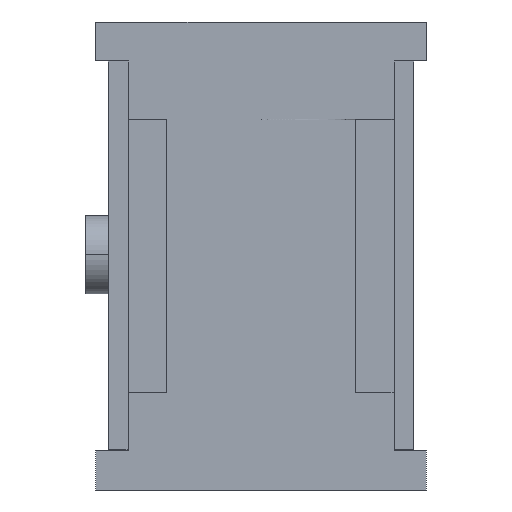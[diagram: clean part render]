
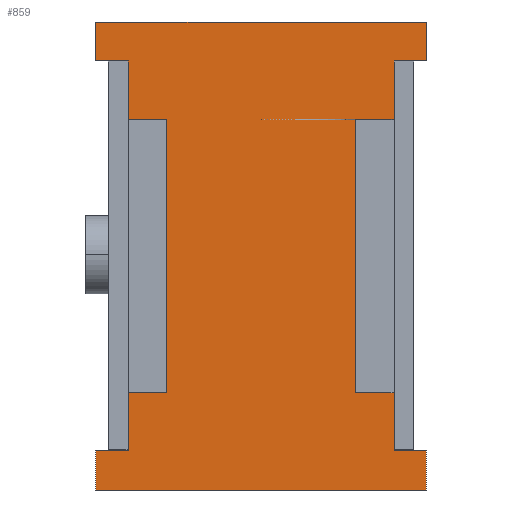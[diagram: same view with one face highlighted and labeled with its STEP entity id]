
A CAD part, front view. The second image highlights one B-rep face of the part: STEP entity #859.
In plain terms, the highlighted planar face has unit normal (0, -1, 0).
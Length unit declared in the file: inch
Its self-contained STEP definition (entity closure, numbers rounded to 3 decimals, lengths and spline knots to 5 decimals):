
#567=EDGE_CURVE('',#1585,#1586,#1587,.T.);
#641=EDGE_CURVE('',#1721,#1722,#1723,.T.);
#693=EDGE_CURVE('',#1811,#1812,#1813,.T.);
#701=EDGE_CURVE('',#1581,#1825,#1826,.T.);
#719=EDGE_CURVE('',#1811,#1851,#1852,.T.);
#749=EDGE_CURVE('',#1812,#1896,#1897,.T.);
#761=EDGE_CURVE('',#1721,#1914,#1915,.T.);
#859=ADVANCED_FACE('',(#2060),#2061,.T.);
#913=EDGE_CURVE('',#2139,#1586,#2140,.T.);
#977=EDGE_CURVE('',#1869,#2231,#2232,.T.);
#1081=EDGE_CURVE('',#2294,#1633,#2371,.T.);
#1221=EDGE_CURVE('',#1585,#1581,#2545,.T.);
#1225=EDGE_CURVE('',#1825,#1896,#2549,.T.);
#1233=EDGE_CURVE('',#2559,#1914,#2560,.T.);
#1311=EDGE_CURVE('',#1633,#2651,#2652,.T.);
#1335=EDGE_CURVE('',#1722,#2139,#2679,.T.);
#1411=EDGE_CURVE('',#2651,#2771,#2772,.T.);
#1413=EDGE_CURVE('',#2754,#2771,#2774,.T.);
#1449=EDGE_CURVE('',#2754,#1869,#2813,.T.);
#1499=EDGE_CURVE('',#2231,#1851,#2869,.T.);
#1533=EDGE_CURVE('',#2294,#2559,#2907,.T.);
#1581=VERTEX_POINT('',#2961);
#1585=VERTEX_POINT('',#2967);
#1586=VERTEX_POINT('',#2968);
#1587=LINE('',#2969,#2970);
#1633=VERTEX_POINT('',#3154);
#1721=VERTEX_POINT('',#3414);
#1722=VERTEX_POINT('',#3415);
#1723=LINE('',#3416,#3417);
#1811=VERTEX_POINT('',#3698);
#1812=VERTEX_POINT('',#3699);
#1813=LINE('',#3700,#3701);
#1825=VERTEX_POINT('',#3722);
#1826=LINE('',#3723,#3724);
#1851=VERTEX_POINT('',#3765);
#1852=LINE('',#3766,#3767);
#1869=VERTEX_POINT('',#3797);
#1896=VERTEX_POINT('',#3842);
#1897=LINE('',#3843,#3844);
#1914=VERTEX_POINT('',#3874);
#1915=LINE('',#3875,#3876);
#2060=FACE_OUTER_BOUND('',#4148,.T.);
#2061=PLANE('',#4149);
#2139=VERTEX_POINT('',#4279);
#2140=LINE('',#4280,#4281);
#2231=VERTEX_POINT('',#4448);
#2232=LINE('',#4449,#4450);
#2294=VERTEX_POINT('',#4556);
#2371=LINE('',#4707,#4708);
#2545=LINE('',#5030,#5031);
#2549=LINE('',#5038,#5039);
#2559=VERTEX_POINT('',#5052);
#2560=LINE('',#5053,#5054);
#2651=VERTEX_POINT('',#5516);
#2652=LINE('',#5517,#5518);
#2679=LINE('',#5573,#5574);
#2754=VERTEX_POINT('',#5713);
#2771=VERTEX_POINT('',#5736);
#2772=LINE('',#5737,#5738);
#2774=LINE('',#5741,#5742);
#2813=LINE('',#5859,#5860);
#2869=LINE('',#6006,#6007);
#2907=LINE('',#6095,#6096);
#2961=CARTESIAN_POINT('',(0.06349,0.74993,1.25));
#2967=CARTESIAN_POINT('',(0.06349,0.74993,1.0625));
#2968=CARTESIAN_POINT('',(0.18795,0.74993,1.0625));
#2969=CARTESIAN_POINT('',(0.06349,0.74993,1.0625));
#2970=VECTOR('',#6124,1.0);
#3154=CARTESIAN_POINT('',(1.0196,0.74993,0.0));
#3414=CARTESIAN_POINT('',(0.06349,0.74993,0.0));
#3415=CARTESIAN_POINT('',(0.06349,0.74993,0.1875));
#3416=CARTESIAN_POINT('',(0.06349,0.74993,0.0));
#3417=VECTOR('',#6205,1.0);
#3698=CARTESIAN_POINT('',(1.01987,0.74993,1.25));
#3699=CARTESIAN_POINT('',(1.01987,0.74993,1.375));
#3700=CARTESIAN_POINT('',(1.01987,0.74993,1.25));
#3701=VECTOR('',#6275,1.0);
#3722=CARTESIAN_POINT('',(-0.0398,0.74993,1.25));
#3723=CARTESIAN_POINT('',(1.01987,0.74993,1.25));
#3724=VECTOR('',#6278,1.0);
#3765=CARTESIAN_POINT('',(0.91605,0.74993,1.25));
#3766=CARTESIAN_POINT('',(1.01987,0.74993,1.25));
#3767=VECTOR('',#6297,1.0);
#3797=CARTESIAN_POINT('',(0.79175,0.74993,1.0625));
#3842=CARTESIAN_POINT('',(-0.0398,0.74993,1.375));
#3843=CARTESIAN_POINT('',(1.01987,0.74993,1.375));
#3844=VECTOR('',#6365,1.0);
#3874=CARTESIAN_POINT('',(-0.04006,0.74993,0.0));
#3875=CARTESIAN_POINT('',(1.0196,0.74993,0.0));
#3876=VECTOR('',#6401,1.0);
#4148=EDGE_LOOP('',(#6545,#6546,#6547,#6548,#6549,#6550,#6551,#6552,#6553,#6554,#6555,#6556,#6557,#6558,#6559,#6560,#6561,#6562,#6563,#6564));
#4149=AXIS2_PLACEMENT_3D('',#6565,#6566,#6567);
#4279=CARTESIAN_POINT('',(0.18795,0.74993,0.1875));
#4280=CARTESIAN_POINT('',(0.18795,0.74993,0.1875));
#4281=VECTOR('',#6618,1.0);
#4448=CARTESIAN_POINT('',(0.91605,0.74993,1.0625));
#4449=CARTESIAN_POINT('',(0.79175,0.74993,1.0625));
#4450=VECTOR('',#6704,1.0);
#4556=CARTESIAN_POINT('',(1.0196,0.74993,-0.125));
#4707=CARTESIAN_POINT('',(1.0196,0.74993,-0.125));
#4708=VECTOR('',#6838,1.0);
#5030=CARTESIAN_POINT('',(0.06349,0.74993,0.0));
#5031=VECTOR('',#7059,1.0);
#5038=CARTESIAN_POINT('',(-0.0398,0.74993,1.25));
#5039=VECTOR('',#7061,1.0);
#5052=CARTESIAN_POINT('',(-0.04006,0.74993,-0.125));
#5053=CARTESIAN_POINT('',(-0.04006,0.74993,-0.125));
#5054=VECTOR('',#7080,1.0);
#5516=CARTESIAN_POINT('',(0.91605,0.74993,0.0));
#5517=CARTESIAN_POINT('',(1.0196,0.74993,0.0));
#5518=VECTOR('',#7196,1.0);
#5573=CARTESIAN_POINT('',(0.06349,0.74993,0.1875));
#5574=VECTOR('',#7226,1.0);
#5713=CARTESIAN_POINT('',(0.79175,0.74993,0.1875));
#5736=CARTESIAN_POINT('',(0.91605,0.74993,0.1875));
#5737=CARTESIAN_POINT('',(0.91605,0.74993,0.0));
#5738=VECTOR('',#7366,1.0);
#5741=CARTESIAN_POINT('',(0.79175,0.74993,0.1875));
#5742=VECTOR('',#7367,1.0);
#5859=CARTESIAN_POINT('',(0.79175,0.74993,0.1875));
#5860=VECTOR('',#7394,1.0);
#6006=CARTESIAN_POINT('',(0.91605,0.74993,0.0));
#6007=VECTOR('',#7449,1.0);
#6095=CARTESIAN_POINT('',(1.0196,0.74993,-0.125));
#6096=VECTOR('',#7492,1.0);
#6124=DIRECTION('',(1.0,0.0,0.0));
#6205=DIRECTION('',(0.0,0.0,1.0));
#6275=DIRECTION('',(0.0,0.0,1.0));
#6278=DIRECTION('',(-1.0,0.0,0.0));
#6297=DIRECTION('',(-1.0,0.0,0.0));
#6365=DIRECTION('',(-1.0,0.0,0.0));
#6401=DIRECTION('',(-1.0,0.0,0.0));
#6545=ORIENTED_EDGE('',*,*,#1311,.T.);
#6546=ORIENTED_EDGE('',*,*,#1411,.T.);
#6547=ORIENTED_EDGE('',*,*,#1413,.F.);
#6548=ORIENTED_EDGE('',*,*,#1449,.T.);
#6549=ORIENTED_EDGE('',*,*,#977,.T.);
#6550=ORIENTED_EDGE('',*,*,#1499,.T.);
#6551=ORIENTED_EDGE('',*,*,#719,.F.);
#6552=ORIENTED_EDGE('',*,*,#693,.T.);
#6553=ORIENTED_EDGE('',*,*,#749,.T.);
#6554=ORIENTED_EDGE('',*,*,#1225,.F.);
#6555=ORIENTED_EDGE('',*,*,#701,.F.);
#6556=ORIENTED_EDGE('',*,*,#1221,.F.);
#6557=ORIENTED_EDGE('',*,*,#567,.T.);
#6558=ORIENTED_EDGE('',*,*,#913,.F.);
#6559=ORIENTED_EDGE('',*,*,#1335,.F.);
#6560=ORIENTED_EDGE('',*,*,#641,.F.);
#6561=ORIENTED_EDGE('',*,*,#761,.T.);
#6562=ORIENTED_EDGE('',*,*,#1233,.F.);
#6563=ORIENTED_EDGE('',*,*,#1533,.F.);
#6564=ORIENTED_EDGE('',*,*,#1081,.T.);
#6565=CARTESIAN_POINT('',(0.48977,0.74993,-0.125));
#6566=DIRECTION('',(0.0,-1.0,0.0));
#6567=DIRECTION('',(1.0,0.0,0.0));
#6618=DIRECTION('',(0.0,0.0,1.0));
#6704=DIRECTION('',(1.0,0.0,0.0));
#6838=DIRECTION('',(0.0,0.0,1.0));
#7059=DIRECTION('',(0.0,0.0,1.0));
#7061=DIRECTION('',(0.0,0.0,1.0));
#7080=DIRECTION('',(0.0,0.0,1.0));
#7196=DIRECTION('',(-1.0,0.0,0.0));
#7226=DIRECTION('',(1.0,0.0,0.0));
#7366=DIRECTION('',(0.0,0.0,1.0));
#7367=DIRECTION('',(1.0,0.0,0.0));
#7394=DIRECTION('',(0.0,0.0,1.0));
#7449=DIRECTION('',(0.0,0.0,1.0));
#7492=DIRECTION('',(-1.0,0.0,0.0));
